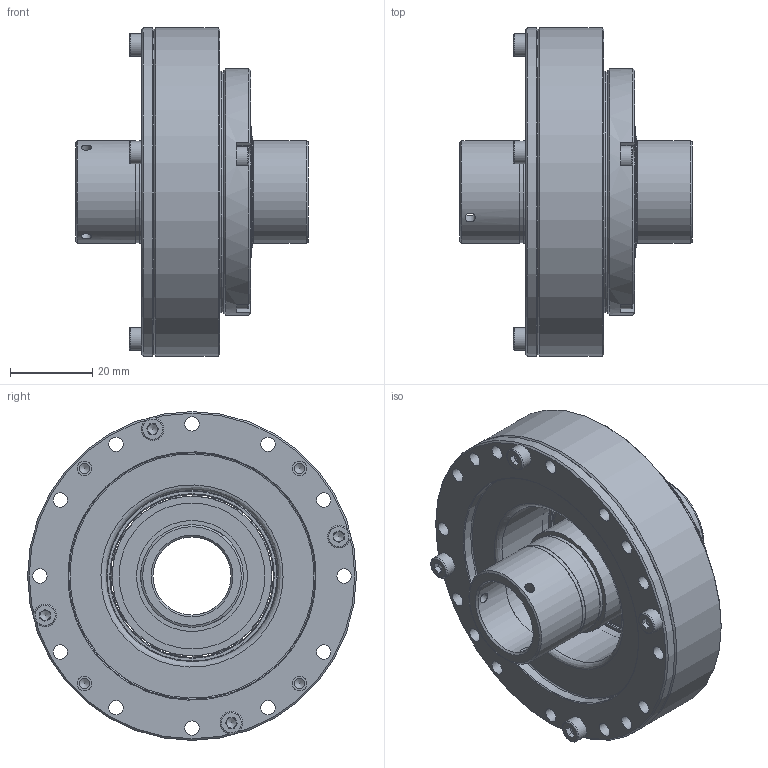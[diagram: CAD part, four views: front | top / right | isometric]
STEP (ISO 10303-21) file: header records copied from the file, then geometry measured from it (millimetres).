
FILE_DESCRIPTION (( 'STEP AP203' ), '1' );
FILE_NAME ('LHS-17-XXX-C-III-ST.STEP', '2025-01-07T05:59:48', ( '' ), ( '' ), 'SwSTEP 2.0', 'SolidWorks 2023', '' );
FILE_SCHEMA (( 'CONFIG_CONTROL_DESIGN' ));
Length unit declared in the file: metre
Products named in the file (1): LHS-17-XXX-C-III-ST
Bounding box: 56.5 x 80 x 80 mm (x, y, z)
Volume: 79390.1 mm3; surface area: 68412.9 mm2
Topology: 41 solids, 41 shells, 561 faces, 1371 edges, 879 vertices
Faces by surface type: plane 225, cylinder 208, cone 71, bspline 57
Full cylindrical faces by diameter (mm): 1.6 x8, 2.5 x31, 3 x8, 3.5 x36, 3.7 x16, 5.5 x8, 19 x2, 19.5 x1, 24.8 x3, 25 x4, 27 x2, 29.4 x1, 30 x1, 30.295 x1, 32 x1, 32.53 x2, 33.23 x1, 35.5 x1, 38.79 x1, 39.6 x2, 41.72 x1, 41.722 x1, 42 x1, 42.466 x1, 43.67 x1, 45.5 x1, 47 x2, 49.5 x1, 53.4 x1, 58.8 x2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
Entity records: 17645 total; most frequent: CARTESIAN_POINT 5879, DIRECTION 2508, ORIENTED_EDGE 1962, AXIS2_PLACEMENT_3D 1096, EDGE_CURVE 981, EDGE_LOOP 978, VERTEX_POINT 773, FACE_OUTER_BOUND 730
